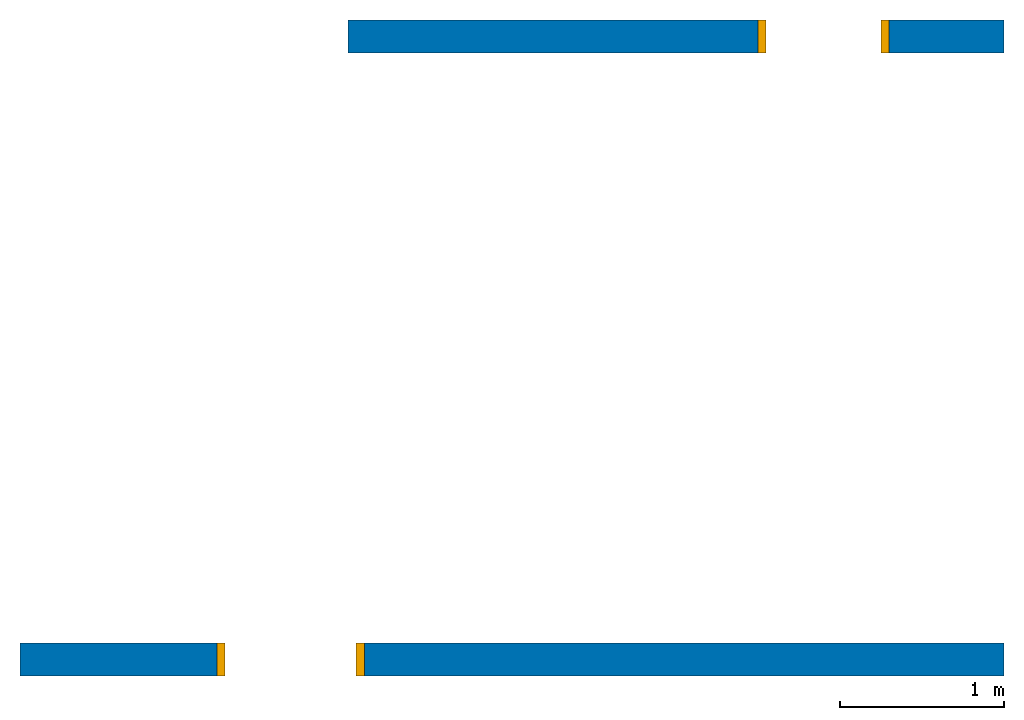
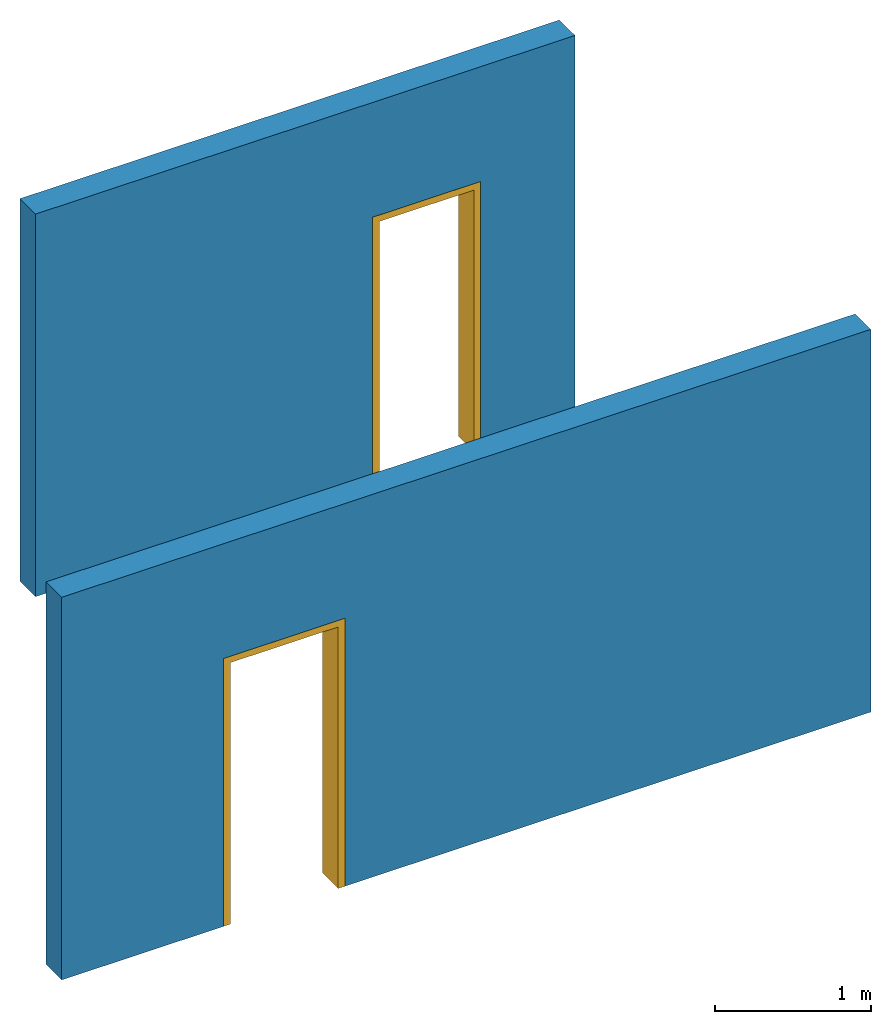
# One storey: 2 doors, 2 walls, 2 openings.
"""IFC4 building model written with IfcOpenShell, lengths in metres."""

from ifc_helpers import new_model, si_unit, frame, origin_with_axes, place, context, subcontext, project, spatial, polyline, outline, extrude, material, type_object, element, fill, save


model = new_model("IFC4")

# Units and contexts
model_context = context("Model", 3, precision=1e-07, world=origin_with_axes())
body_context = subcontext(model_context, "Body", "Model", "MODEL_VIEW")
ifc_project = project(units=[si_unit("LENGTHUNIT", "METRE"), si_unit("AREAUNIT", "SQUARE_METRE"), si_unit("VOLUMEUNIT", "CUBIC_METRE")], contexts=[model_context])

# Site, building, storey
site_placement = place(None, origin_with_axes())
site = spatial("IfcSite", under=ifc_project, at=site_placement, Name="3117 Site", CompositionType="ELEMENT")
building_placement = place(site_placement, origin_with_axes())
building = spatial("IfcBuilding", under=site, at=building_placement, Name="3117 ปริมาณและ IFC", CompositionType="ELEMENT")
storey_placement = place(building_placement, origin_with_axes())
storey = spatial("IfcBuildingStorey", under=building, at=storey_placement, Name="L00", CompositionType="ELEMENT", Elevation=0.0)

# Wall, opening, door
ifc_material = material(Name="Concrete")
wall_type = type_object("IfcWallType", Name="W200", PredefinedType="STANDARD", material=ifc_material)
wall_1_placement = place(storey_placement, origin_with_axes())
wall_1 = element("IfcWall", 1, at=wall_1_placement, inside=storey, type_object=wall_type, Name="W201", PredefinedType="STANDARD", context=body_context, shape_type="SweptSolid", body=[
    extrude(outline(polyline([(0.0, 0.0), (6.0, 0.0), (6.0, 0.2), (0.0, 0.2), (0.0, 0.0)])), origin_with_axes(), (0.0, 0.0, 1.0), 3.0),
])
opening_1_placement = place(wall_1_placement, frame((1.2, -1e-06, 0.0), z_axis=(0.0, 0.0, 1.0), x_axis=(1.0, 0.0, 0.0)))
opening_1 = element("IfcOpeningElement", 2, at=opening_1_placement, cuts=wall_1, Name="Opening — ประตู D01", PredefinedType="OPENING", context=body_context, shape_type="SweptSolid", body=[
    extrude(outline(polyline([(0.0, 0.0), (0.9, 0.0), (0.9, 0.200002), (0.0, 0.200002), (0.0, 0.0)])), origin_with_axes(), (0.0, 0.0, 1.0), 2.1),
])
door_1_placement = place(opening_1_placement, frame((0.0, 1e-06, 0.0), z_axis=(0.0, 0.0, 1.0), x_axis=(1.0, 0.0, 0.0)))
door_1 = element("IfcDoor", 3, at=door_1_placement, inside=storey, Name="ประตู D01", OperationType="NOTDEFINED", OverallHeight=2.1, OverallWidth=0.9, PredefinedType="DOOR", context=body_context, shape_type="SweptSolid", body=[
    extrude(outline(polyline([(0.0, 0.0), (0.05, 0.0), (0.05, 0.2), (0.0, 0.2), (0.0, 0.0)])), origin_with_axes(), (0.0, 0.0, 1.0), 2.05),
    extrude(outline(polyline([(0.0, 0.0), (0.05, 0.0), (0.05, 0.2), (0.0, 0.2), (0.0, 0.0)])), frame((0.85, 0.0, 0.0), z_axis=(0.0, 0.0, 1.0), x_axis=(1.0, 0.0, 0.0)), (0.0, 0.0, 1.0), 2.05),
    extrude(outline(polyline([(0.0, 0.0), (0.9, 0.0), (0.9, 0.2), (0.0, 0.2), (0.0, 0.0)])), frame((0.0, 0.0, 2.05), z_axis=(0.0, 0.0, 1.0), x_axis=(1.0, 0.0, 0.0)), (0.0, 0.0, 1.0), 0.05),
])
fill(opening_1, door_1)

wall_2_placement = place(storey_placement, frame((6.0, 4.0, 0.0), z_axis=(0.0, 0.0, 1.0), x_axis=(-1.0, 0.0, 0.0)))
wall_2 = element("IfcWall", 4, at=wall_2_placement, inside=storey, type_object=wall_type, Name="Reversed wall", PredefinedType="STANDARD", context=body_context, shape_type="SweptSolid", body=[
    extrude(outline(polyline([(0.0, 0.0), (4.0, 0.0), (4.0, 0.2), (0.0, 0.2), (0.0, 0.0)])), origin_with_axes(), (0.0, 0.0, 1.0), 3.0),
])
opening_2_placement = place(wall_2_placement, frame((0.7, -1e-06, 0.0), z_axis=(0.0, 0.0, 1.0), x_axis=(1.0, 0.0, 0.0)))
opening_2 = element("IfcOpeningElement", 5, at=opening_2_placement, cuts=wall_2, Name="Opening — Reversed door", PredefinedType="OPENING", context=body_context, shape_type="SweptSolid", body=[
    extrude(outline(polyline([(0.0, 0.0), (0.8, 0.0), (0.8, 0.200002), (0.0, 0.200002), (0.0, 0.0)])), origin_with_axes(), (0.0, 0.0, 1.0), 2.1),
])
door_2_placement = place(opening_2_placement, frame((0.0, 1e-06, 0.0), z_axis=(0.0, 0.0, 1.0), x_axis=(1.0, 0.0, 0.0)))
door_2 = element("IfcDoor", 6, at=door_2_placement, inside=storey, Name="Reversed door", OperationType="NOTDEFINED", OverallHeight=2.1, OverallWidth=0.8, PredefinedType="DOOR", context=body_context, shape_type="SweptSolid", body=[
    extrude(outline(polyline([(0.0, 0.0), (0.05, 0.0), (0.05, 0.2), (0.0, 0.2), (0.0, 0.0)])), origin_with_axes(), (0.0, 0.0, 1.0), 2.05),
    extrude(outline(polyline([(0.0, 0.0), (0.05, 0.0), (0.05, 0.2), (0.0, 0.2), (0.0, 0.0)])), frame((0.75, 0.0, 0.0), z_axis=(0.0, 0.0, 1.0), x_axis=(1.0, 0.0, 0.0)), (0.0, 0.0, 1.0), 2.05),
    extrude(outline(polyline([(0.0, 0.0), (0.8, 0.0), (0.8, 0.2), (0.0, 0.2), (0.0, 0.0)])), frame((0.0, 0.0, 2.05), z_axis=(0.0, 0.0, 1.0), x_axis=(1.0, 0.0, 0.0)), (0.0, 0.0, 1.0), 0.05),
])
fill(opening_2, door_2)

save(model, "model.ifc")
